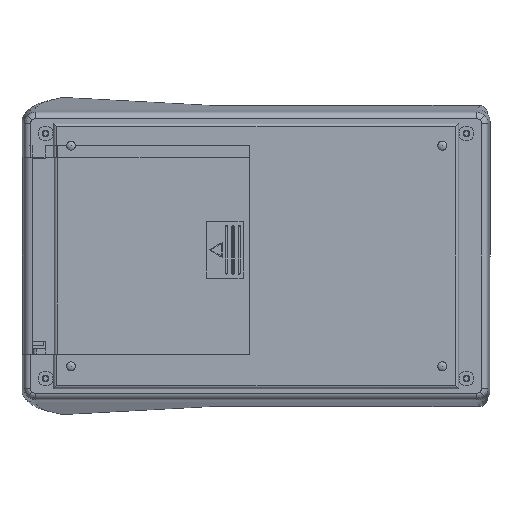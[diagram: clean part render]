
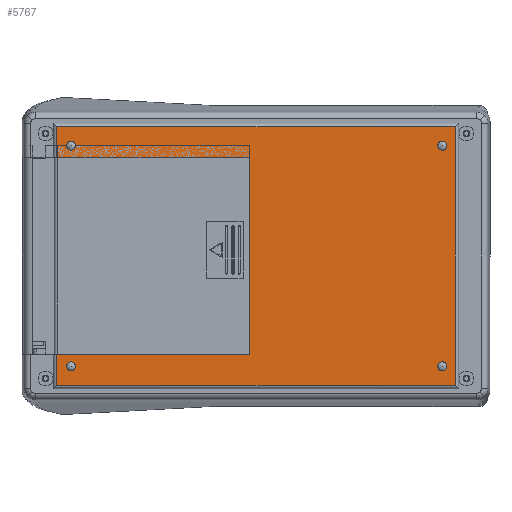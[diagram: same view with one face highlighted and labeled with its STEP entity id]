
A CAD part, front view. The second image highlights one B-rep face of the part: STEP entity #5767.
In plain terms, the highlighted planar face has unit normal (0, -1, 0).
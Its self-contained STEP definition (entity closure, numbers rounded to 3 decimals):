
#14 = VECTOR ( 'NONE', #3344, 1000. ) ;
#195 = LINE ( 'NONE', #3302, #409 ) ;
#296 = EDGE_CURVE ( 'NONE', #11758, #14726, #19467, .T. ) ;
#322 = CARTESIAN_POINT ( 'NONE',  ( 57.9, -16., -34.3 ) ) ;
#409 = VECTOR ( 'NONE', #12547, 1000. ) ;
#433 = CARTESIAN_POINT ( 'NONE',  ( 63., -16., -40.25 ) ) ;
#582 = AXIS2_PLACEMENT_3D ( 'NONE', #11776, #2546, #13347 ) ;
#1124 = VECTOR ( 'NONE', #4477, 1000. ) ;
#1263 = DIRECTION ( 'NONE',  ( 0., 0., -1. ) ) ;
#1641 = VERTEX_POINT ( 'NONE', #11052 ) ;
#1864 = DIRECTION ( 'NONE',  ( 0., 0., -1. ) ) ;
#2014 = EDGE_LOOP ( 'NONE', ( #14121, #16061 ) ) ;
#2046 = CARTESIAN_POINT ( 'NONE',  ( -57.5, -16., -34.3 ) ) ;
#2064 = VERTEX_POINT ( 'NONE', #13461 ) ;
#2284 = CARTESIAN_POINT ( 'NONE',  ( -2., -16., -30.5 ) ) ;
#2359 = EDGE_CURVE ( 'NONE', #16723, #8527, #7995, .T. ) ;
#2507 = CARTESIAN_POINT ( 'NONE',  ( 62., -16., 40.25 ) ) ;
#2546 = DIRECTION ( 'NONE',  ( 0., -1., 0. ) ) ;
#2764 = DIRECTION ( 'NONE',  ( 0., -1., 0. ) ) ;
#2774 = DIRECTION ( 'NONE',  ( 0., -1., 0. ) ) ;
#2798 = VERTEX_POINT ( 'NONE', #14255 ) ;
#3028 = VECTOR ( 'NONE', #9582, 1000. ) ;
#3076 = ORIENTED_EDGE ( 'NONE', *, *, #16372, .T. ) ;
#3145 = ORIENTED_EDGE ( 'NONE', *, *, #10148, .F. ) ;
#3302 = CARTESIAN_POINT ( 'NONE',  ( -62., -16., -41.25 ) ) ;
#3344 = DIRECTION ( 'NONE',  ( -1., 0., 0. ) ) ;
#3474 = EDGE_CURVE ( 'NONE', #12042, #8277, #7696, .T. ) ;
#3478 = ORIENTED_EDGE ( 'NONE', *, *, #7532, .F. ) ;
#3544 = VECTOR ( 'NONE', #8099, 1000. ) ;
#3590 = DIRECTION ( 'NONE',  ( 0., 0., -1. ) ) ;
#3679 = ORIENTED_EDGE ( 'NONE', *, *, #2359, .F. ) ;
#4185 = CARTESIAN_POINT ( 'NONE',  ( 57.9, -16., 32.9 ) ) ;
#4290 = EDGE_LOOP ( 'NONE', ( #11132, #9108 ) ) ;
#4477 = DIRECTION ( 'NONE',  ( 0., 0., 1. ) ) ;
#4508 = CARTESIAN_POINT ( 'NONE',  ( -62., -16., -41.25 ) ) ;
#4881 = DIRECTION ( 'NONE',  ( 1., 0., 0. ) ) ;
#5629 = VECTOR ( 'NONE', #13777, 1000. ) ;
#5658 = CARTESIAN_POINT ( 'NONE',  ( 57.9, -16., -34.3 ) ) ;
#5685 = CARTESIAN_POINT ( 'NONE',  ( 57.9, -16., -35.7 ) ) ;
#5750 = CARTESIAN_POINT ( 'NONE',  ( -62., -16., -30.5 ) ) ;
#5763 = AXIS2_PLACEMENT_3D ( 'NONE', #15721, #6433, #17244 ) ;
#5767 = ADVANCED_FACE ( 'NONE', ( #19311, #18823, #10582, #14248, #6484 ), #17928, .T. ) ;
#5959 = EDGE_CURVE ( 'NONE', #14726, #19853, #14489, .T. ) ;
#6043 = CARTESIAN_POINT ( 'NONE',  ( -57.5, -16., -35.7 ) ) ;
#6170 = LINE ( 'NONE', #18402, #1124 ) ;
#6215 = DIRECTION ( 'NONE',  ( 0., -1., 0. ) ) ;
#6433 = DIRECTION ( 'NONE',  ( 0., -1., 0. ) ) ;
#6484 = FACE_BOUND ( 'NONE', #6883, .T. ) ;
#6786 = AXIS2_PLACEMENT_3D ( 'NONE', #15503, #6215, #17037 ) ;
#6883 = EDGE_LOOP ( 'NONE', ( #13811, #3145 ) ) ;
#6942 = CIRCLE ( 'NONE', #14310, 1.4 ) ;
#6968 = CIRCLE ( 'NONE', #15904, 1.4 ) ;
#7012 = ORIENTED_EDGE ( 'NONE', *, *, #13767, .T. ) ;
#7137 = AXIS2_PLACEMENT_3D ( 'NONE', #19745, #10471, #1263 ) ;
#7222 = DIRECTION ( 'NONE',  ( 0., 0., -1. ) ) ;
#7502 = VECTOR ( 'NONE', #4881, 1000. ) ;
#7532 = EDGE_CURVE ( 'NONE', #19151, #7987, #14170, .T. ) ;
#7574 = DIRECTION ( 'NONE',  ( 0., 0., 1. ) ) ;
#7696 = LINE ( 'NONE', #14159, #14 ) ;
#7719 = AXIS2_PLACEMENT_3D ( 'NONE', #12008, #2774, #13575 ) ;
#7987 = VERTEX_POINT ( 'NONE', #18055 ) ;
#7989 = VERTEX_POINT ( 'NONE', #5685 ) ;
#7995 = LINE ( 'NONE', #17228, #7502 ) ;
#8099 = DIRECTION ( 'NONE',  ( 1., 0., 0. ) ) ;
#8119 = EDGE_CURVE ( 'NONE', #8527, #12042, #6170, .T. ) ;
#8277 = VERTEX_POINT ( 'NONE', #15785 ) ;
#8288 = ORIENTED_EDGE ( 'NONE', *, *, #14283, .T. ) ;
#8326 = EDGE_LOOP ( 'NONE', ( #10797, #3478 ) ) ;
#8527 = VERTEX_POINT ( 'NONE', #2284 ) ;
#9108 = ORIENTED_EDGE ( 'NONE', *, *, #16985, .F. ) ;
#9148 = CIRCLE ( 'NONE', #7719, 1.4 ) ;
#9582 = DIRECTION ( 'NONE',  ( -1., 0., 0. ) ) ;
#10148 = EDGE_CURVE ( 'NONE', #1641, #11964, #16942, .T. ) ;
#10331 = VECTOR ( 'NONE', #7574, 1000. ) ;
#10471 = DIRECTION ( 'NONE',  ( 0., -1., 0. ) ) ;
#10582 = FACE_BOUND ( 'NONE', #4290, .T. ) ;
#10797 = ORIENTED_EDGE ( 'NONE', *, *, #12247, .F. ) ;
#10968 = EDGE_CURVE ( 'NONE', #11964, #1641, #9148, .T. ) ;
#11052 = CARTESIAN_POINT ( 'NONE',  ( -57.5, -16., 32.9 ) ) ;
#11085 = DIRECTION ( 'NONE',  ( 0., -1., 0. ) ) ;
#11132 = ORIENTED_EDGE ( 'NONE', *, *, #14839, .F. ) ;
#11274 = ORIENTED_EDGE ( 'NONE', *, *, #8119, .F. ) ;
#11529 = EDGE_CURVE ( 'NONE', #19913, #14772, #17123, .T. ) ;
#11758 = VERTEX_POINT ( 'NONE', #18941 ) ;
#11776 = CARTESIAN_POINT ( 'NONE',  ( -63., -16., 41.25 ) ) ;
#11964 = VERTEX_POINT ( 'NONE', #16363 ) ;
#11999 = CARTESIAN_POINT ( 'NONE',  ( -57.5, -16., -34.3 ) ) ;
#12008 = CARTESIAN_POINT ( 'NONE',  ( -57.5, -16., 34.3 ) ) ;
#12042 = VERTEX_POINT ( 'NONE', #18101 ) ;
#12156 = ORIENTED_EDGE ( 'NONE', *, *, #5959, .T. ) ;
#12247 = EDGE_CURVE ( 'NONE', #7987, #19151, #6942, .T. ) ;
#12547 = DIRECTION ( 'NONE',  ( 0., 0., -1. ) ) ;
#12839 = DIRECTION ( 'NONE',  ( 0., -1., 0. ) ) ;
#13347 = DIRECTION ( 'NONE',  ( 0., 0., -1. ) ) ;
#13461 = CARTESIAN_POINT ( 'NONE',  ( -62., -16., 40.25 ) ) ;
#13462 = AXIS2_PLACEMENT_3D ( 'NONE', #322, #11085, #1864 ) ;
#13565 = DIRECTION ( 'NONE',  ( 0., 0., -1. ) ) ;
#13575 = DIRECTION ( 'NONE',  ( 0., 0., -1. ) ) ;
#13665 = EDGE_CURVE ( 'NONE', #14772, #19913, #16793, .T. ) ;
#13687 = CIRCLE ( 'NONE', #13462, 1.4 ) ;
#13767 = EDGE_CURVE ( 'NONE', #19853, #2064, #18969, .T. ) ;
#13777 = DIRECTION ( 'NONE',  ( 0., 0., -1. ) ) ;
#13811 = ORIENTED_EDGE ( 'NONE', *, *, #10968, .F. ) ;
#14002 = EDGE_LOOP ( 'NONE', ( #17393, #11274, #3679, #8288, #15341, #12156, #7012, #3076 ) ) ;
#14121 = ORIENTED_EDGE ( 'NONE', *, *, #13665, .F. ) ;
#14159 = CARTESIAN_POINT ( 'NONE',  ( -2., -16., 30.5 ) ) ;
#14170 = CIRCLE ( 'NONE', #16251, 1.4 ) ;
#14248 = FACE_BOUND ( 'NONE', #8326, .T. ) ;
#14255 = CARTESIAN_POINT ( 'NONE',  ( 57.9, -16., -32.9 ) ) ;
#14283 = EDGE_CURVE ( 'NONE', #16723, #11758, #17495, .T. ) ;
#14310 = AXIS2_PLACEMENT_3D ( 'NONE', #2046, #12839, #3590 ) ;
#14489 = LINE ( 'NONE', #18403, #10331 ) ;
#14726 = VERTEX_POINT ( 'NONE', #17652 ) ;
#14772 = VERTEX_POINT ( 'NONE', #19395 ) ;
#14839 = EDGE_CURVE ( 'NONE', #2798, #7989, #6968, .T. ) ;
#15341 = ORIENTED_EDGE ( 'NONE', *, *, #296, .T. ) ;
#15503 = CARTESIAN_POINT ( 'NONE',  ( 57.9, -16., 34.3 ) ) ;
#15721 = CARTESIAN_POINT ( 'NONE',  ( -57.5, -16., 34.3 ) ) ;
#15785 = CARTESIAN_POINT ( 'NONE',  ( -62., -16., 30.5 ) ) ;
#15904 = AXIS2_PLACEMENT_3D ( 'NONE', #5658, #16499, #7222 ) ;
#16061 = ORIENTED_EDGE ( 'NONE', *, *, #11529, .F. ) ;
#16251 = AXIS2_PLACEMENT_3D ( 'NONE', #11999, #2764, #13565 ) ;
#16363 = CARTESIAN_POINT ( 'NONE',  ( -57.5, -16., 35.7 ) ) ;
#16372 = EDGE_CURVE ( 'NONE', #2064, #8277, #195, .T. ) ;
#16499 = DIRECTION ( 'NONE',  ( 0., -1., 0. ) ) ;
#16723 = VERTEX_POINT ( 'NONE', #5750 ) ;
#16793 = CIRCLE ( 'NONE', #6786, 1.4 ) ;
#16942 = CIRCLE ( 'NONE', #5763, 1.4 ) ;
#16985 = EDGE_CURVE ( 'NONE', #7989, #2798, #13687, .T. ) ;
#17037 = DIRECTION ( 'NONE',  ( 0., 0., -1. ) ) ;
#17123 = CIRCLE ( 'NONE', #7137, 1.4 ) ;
#17228 = CARTESIAN_POINT ( 'NONE',  ( -2., -16., -30.5 ) ) ;
#17244 = DIRECTION ( 'NONE',  ( 0., 0., -1. ) ) ;
#17393 = ORIENTED_EDGE ( 'NONE', *, *, #3474, .F. ) ;
#17495 = LINE ( 'NONE', #4508, #5629 ) ;
#17652 = CARTESIAN_POINT ( 'NONE',  ( 62., -16., -40.25 ) ) ;
#17928 = PLANE ( 'NONE',  #582 ) ;
#18055 = CARTESIAN_POINT ( 'NONE',  ( -57.5, -16., -32.9 ) ) ;
#18101 = CARTESIAN_POINT ( 'NONE',  ( -2., -16., 30.5 ) ) ;
#18402 = CARTESIAN_POINT ( 'NONE',  ( -2., -16., -30.5 ) ) ;
#18403 = CARTESIAN_POINT ( 'NONE',  ( 62., -16., 41.25 ) ) ;
#18823 = FACE_OUTER_BOUND ( 'NONE', #14002, .T. ) ;
#18855 = CARTESIAN_POINT ( 'NONE',  ( -63., -16., 40.25 ) ) ;
#18941 = CARTESIAN_POINT ( 'NONE',  ( -62., -16., -40.25 ) ) ;
#18969 = LINE ( 'NONE', #18855, #3028 ) ;
#19151 = VERTEX_POINT ( 'NONE', #6043 ) ;
#19311 = FACE_BOUND ( 'NONE', #2014, .T. ) ;
#19395 = CARTESIAN_POINT ( 'NONE',  ( 57.9, -16., 35.7 ) ) ;
#19467 = LINE ( 'NONE', #433, #3544 ) ;
#19745 = CARTESIAN_POINT ( 'NONE',  ( 57.9, -16., 34.3 ) ) ;
#19853 = VERTEX_POINT ( 'NONE', #2507 ) ;
#19913 = VERTEX_POINT ( 'NONE', #4185 ) ;
